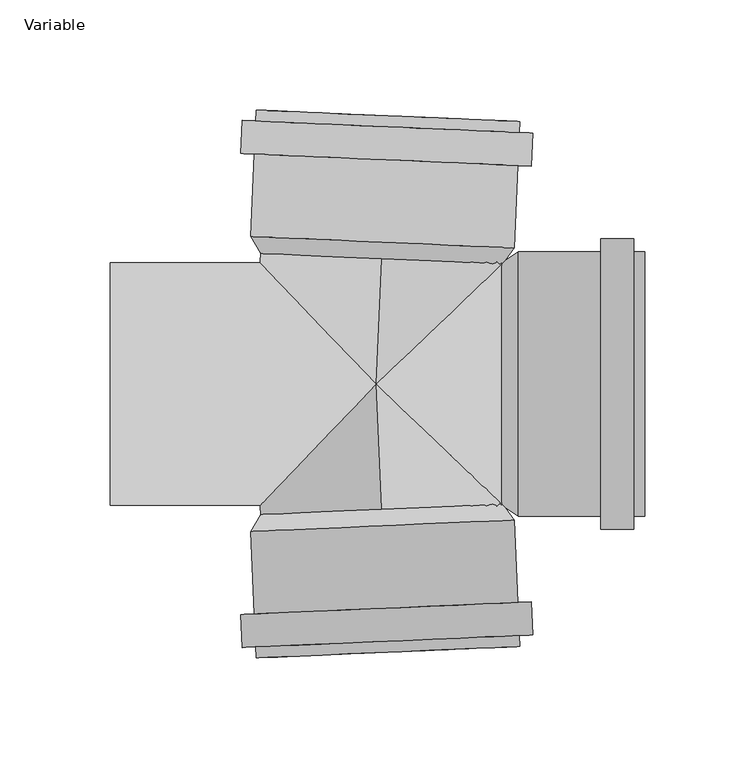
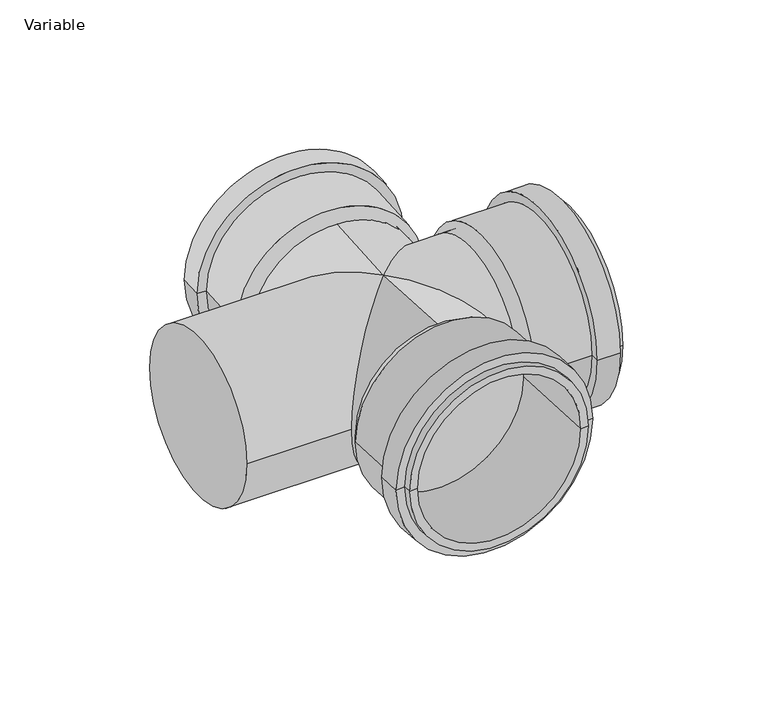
"""IFC4 building model written with IfcOpenShell, lengths in millimetres: pipe fitting geometry, AliaxisFR_Friaphon_DoubleParallelBranch_FR : Variable."""

from ifc_helpers import new_model, si_unit, frame, origin, place, context, project, spatial, polyline, circle_curve, ellipse_curve, source, transform, mapped, element, save
from ifc_brep_helpers import plane_surface, cylinder_surface, revolved_surface, advanced_brep


def variable_3cd19208(model_context):
    return source(origin(), model_context, "Body", "AdvancedBrep", [
        advanced_brep(
        [(65.2644586, -119.2667198, 0.0), (60.2692174, -119.4848167, 0.0), (-49.6260869, -124.2829493, 0.0), (-54.621328, -124.5010463, 0.0), (70.3863601, -99.024039, 0.0), (71.0406509, -114.0097624, 0.0), (-60.8337143, -119.7675215, 0.0), (-61.4880051, -104.7817982, 0.0), (64.3920708, -99.2857554, 0.0), (-55.4937158, -104.5200818, 0.0), (62.7563438, -61.8214471, 0.0), (-57.1294428, -67.0557735, 0.0), (57.4339573, -54.5466823, 0.0), (-52.4613471, -59.3448149, 0.0), (65.0463616, -114.2714787, 0.0), (-54.839425, -119.5058052, 0.0)],
        [
            (0, 1),
            (1, 2, circle_curve(frame((5.3215653, -121.883883, 0.0), z_axis=(-0.043619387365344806, 0.9990482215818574, 0.0), x_axis=(-0.9990482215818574, -0.043619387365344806, 0.0)), 55.0)),
            (2, 3),
            (3, 0, circle_curve(frame((5.3215653, -121.883883, 0.0), z_axis=(0.043619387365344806, -0.9990482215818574, 0.0), x_axis=(-0.9990482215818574, -0.043619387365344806, 0.0)), 60.0)),
            (2, 1, circle_curve(frame((5.3215653, -121.883883, 0.0), z_axis=(-0.043619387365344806, 0.9990482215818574, 0.0), x_axis=(-0.9990482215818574, -0.043619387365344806, 0.0)), 55.0)),
            (0, 3, circle_curve(frame((5.3215653, -121.883883, 0.0), z_axis=(0.043619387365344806, -0.9990482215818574, 0.0), x_axis=(-0.9990482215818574, -0.043619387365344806, 0.0)), 60.0)),
            (4, 5),
            (5, 6, circle_curve(frame((5.1034683, -116.8886419, 0.0), z_axis=(-0.043619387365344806, 0.9990482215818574, 0.0), x_axis=(-0.9990482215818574, -0.043619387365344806, 0.0)), 66.0)),
            (6, 7),
            (7, 4, circle_curve(frame((4.4491775, -101.9029186, 0.0), z_axis=(0.043619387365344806, -0.9990482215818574, 0.0), x_axis=(-0.9990482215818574, -0.043619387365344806, 0.0)), 66.0)),
            (6, 5, circle_curve(frame((5.1034683, -116.8886419, 0.0), z_axis=(-0.043619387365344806, 0.9990482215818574, 0.0), x_axis=(-0.9990482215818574, -0.043619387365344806, 0.0)), 66.0)),
            (4, 7, circle_curve(frame((4.4491775, -101.9029186, 0.0), z_axis=(0.043619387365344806, -0.9990482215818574, 0.0), x_axis=(-0.9990482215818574, -0.043619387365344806, 0.0)), 66.0)),
            (8, 4),
            (7, 9),
            (9, 8, circle_curve(frame((4.4491775, -101.9029186, 0.0), z_axis=(0.043619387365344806, -0.9990482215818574, 0.0), x_axis=(-0.9990482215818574, -0.043619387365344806, 0.0)), 60.0)),
            (8, 9, circle_curve(frame((4.4491775, -101.9029186, 0.0), z_axis=(0.043619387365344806, -0.9990482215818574, 0.0), x_axis=(-0.9990482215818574, -0.043619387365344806, 0.0)), 60.0)),
            (10, 8),
            (9, 11),
            (11, 10, circle_curve(frame((2.8134505, -64.4386103, 0.0), z_axis=(0.043619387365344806, -0.9990482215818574, 0.0), x_axis=(-0.9990482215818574, -0.043619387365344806, 0.0)), 60.0)),
            (10, 11, circle_curve(frame((2.8134505, -64.4386103, 0.0), z_axis=(0.043619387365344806, -0.9990482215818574, 0.0), x_axis=(-0.9990482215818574, -0.043619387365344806, 0.0)), 60.0)),
            (1, 12),
            (12, 13, circle_curve(frame((2.4863051, -56.9457486, 0.0), z_axis=(-0.043619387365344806, 0.9990482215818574, 0.0), x_axis=(-0.9990482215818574, -0.043619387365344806, 0.0)), 55.0)),
            (13, 2),
            (13, 12, circle_curve(frame((2.4863051, -56.9457486, 0.0), z_axis=(-0.043619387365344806, 0.9990482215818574, 0.0), x_axis=(-0.9990482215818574, -0.043619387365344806, 0.0)), 55.0)),
            (12, 10),
            (11, 13),
            (14, 0),
            (3, 15),
            (15, 14, circle_curve(frame((5.1034683, -116.8886419, 0.0), z_axis=(0.043619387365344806, -0.9990482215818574, 0.0), x_axis=(-0.9990482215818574, -0.043619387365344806, 0.0)), 60.0)),
            (14, 15, circle_curve(frame((5.1034683, -116.8886419, 0.0), z_axis=(0.043619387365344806, -0.9990482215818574, 0.0), x_axis=(-0.9990482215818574, -0.043619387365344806, 0.0)), 60.0)),
            (5, 14),
            (15, 6),
        ],
        [
            plane_surface(frame((5.3215653, -121.883883, 0.0), z_axis=(0.043619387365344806, -0.9990482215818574, 0.0), x_axis=(-0.9990482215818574, -0.043619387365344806, 0.0))),
            cylinder_surface(frame((2.4863051, -56.9457486, 0.0), z_axis=(-0.043619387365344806, 0.9990482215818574, 0.0), x_axis=(-0.9990482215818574, -0.043619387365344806, 0.0)), 66.0),
            plane_surface(frame((4.4491775, -101.9029186, 0.0), z_axis=(-0.043619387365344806, 0.9990482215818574, 0.0), x_axis=(-0.9990482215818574, -0.043619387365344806, 0.0))),
            cylinder_surface(frame((2.4863051, -56.9457486, 0.0), z_axis=(-0.043619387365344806, 0.9990482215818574, 0.0), x_axis=(-0.9990482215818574, -0.043619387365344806, 0.0)), 60.0),
            revolved_surface(polyline([(-52.46134708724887, -59.34481489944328, 0.0), (-49.626086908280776, -124.28294930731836, 0.0)]), (2.4863051, -56.9457486, 0.0), (-0.043619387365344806, 0.9990482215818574, 0.0)),
            revolved_surface(polyline([(-57.1294428, -67.0557735, 0.0), (-52.4613471, -59.3448149, 0.0)]), (2.4863051, -56.9457486, 0.0), (-0.043619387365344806, 0.9990482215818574, 0.0)),
            plane_surface(frame((5.1034683, -116.8886419, 0.0), z_axis=(0.043619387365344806, -0.9990482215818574, 0.0), x_axis=(-0.9990482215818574, -0.043619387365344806, 0.0))),
        ],
        [
            (0, [[1, 2, 3, 4]]),
            (0, [[-3, 5, -1, 6]]),
            (1, [[7, 8, 9, 10]]),
            (1, [[-9, 11, -7, 12]]),
            (2, [[13, -10, 14, 15]]),
            (2, [[-14, -12, -13, 16]]),
            (3, [[17, -15, 18, 19]]),
            (3, [[-18, -16, -17, 20]]),
            (4, [[21, 22, 23, -2]]),
            (4, [[-23, 24, -21, -5]]),
            (5, [[25, -19, 26, -22]]),
            (5, [[-26, -20, -25, -24]]),
            (3, [[27, -4, 28, 29]]),
            (3, [[-28, -6, -27, 30]]),
            (6, [[31, -29, 32, -8]]),
            (6, [[-32, -30, -31, -11]]),
        ],
    ),
        advanced_brep(
        [(122.0, -60.0, 0.0), (122.0, 60.0, 0.0), (122.0, 55.0, 0.0), (122.0, -55.0, 0.0), (102.0, -66.0, 0.0), (102.0, 66.0, 0.0), (117.0, 66.0, 0.0), (117.0, -66.0, 0.0), (102.0, -60.0, 0.0), (102.0, 60.0, 0.0), (64.5, -60.0, 0.0), (64.5, 60.0, 0.0), (57.0, 55.0, 0.0), (57.0, -55.0, 0.0), (117.0, -60.0, 0.0), (117.0, 60.0, 0.0)],
        [
            (0, 1, circle_curve(frame((122.0, 0.0, 0.0), z_axis=(1.0, 0.0, 0.0), x_axis=(0.0, 1.0, 0.0)), 60.0)),
            (1, 2),
            (2, 3, circle_curve(frame((122.0, 0.0, 0.0), z_axis=(-1.0, 0.0, 0.0), x_axis=(0.0, 1.0, 0.0)), 55.0)),
            (3, 0),
            (1, 0, circle_curve(frame((122.0, 0.0, 0.0), z_axis=(1.0, 0.0, 0.0), x_axis=(0.0, 1.0, 0.0)), 60.0)),
            (3, 2, circle_curve(frame((122.0, 0.0, 0.0), z_axis=(-1.0, 0.0, 0.0), x_axis=(0.0, 1.0, 0.0)), 55.0)),
            (4, 5, circle_curve(frame((102.0, 0.0, 0.0), z_axis=(1.0, 0.0, 0.0), x_axis=(0.0, 1.0, 0.0)), 66.0)),
            (5, 6),
            (6, 7, circle_curve(frame((117.0, 0.0, 0.0), z_axis=(-1.0, 0.0, 0.0), x_axis=(0.0, 1.0, 0.0)), 66.0)),
            (7, 4),
            (5, 4, circle_curve(frame((102.0, 0.0, 0.0), z_axis=(1.0, 0.0, 0.0), x_axis=(0.0, 1.0, 0.0)), 66.0)),
            (7, 6, circle_curve(frame((117.0, 0.0, 0.0), z_axis=(-1.0, 0.0, 0.0), x_axis=(0.0, 1.0, 0.0)), 66.0)),
            (8, 9, circle_curve(frame((102.0, 0.0, 0.0), z_axis=(1.0, 0.0, 0.0), x_axis=(0.0, 1.0, 0.0)), 60.0)),
            (9, 5),
            (4, 8),
            (9, 8, circle_curve(frame((102.0, 0.0, 0.0), z_axis=(1.0, 0.0, 0.0), x_axis=(0.0, 1.0, 0.0)), 60.0)),
            (10, 11, circle_curve(frame((64.5, 0.0, 0.0), z_axis=(1.0, 0.0, 0.0), x_axis=(0.0, 1.0, 0.0)), 60.0)),
            (11, 9),
            (8, 10),
            (11, 10, circle_curve(frame((64.5, 0.0, 0.0), z_axis=(1.0, 0.0, 0.0), x_axis=(0.0, 1.0, 0.0)), 60.0)),
            (2, 12),
            (12, 13, circle_curve(frame((57.0, 0.0, 0.0), z_axis=(-1.0, 0.0, 0.0), x_axis=(0.0, 1.0, 0.0)), 55.0)),
            (13, 3),
            (13, 12, circle_curve(frame((57.0, 0.0, 0.0), z_axis=(-1.0, 0.0, 0.0), x_axis=(0.0, 1.0, 0.0)), 55.0)),
            (12, 11),
            (10, 13),
            (14, 15, circle_curve(frame((117.0, 0.0, 0.0), z_axis=(1.0, 0.0, 0.0), x_axis=(0.0, 1.0, 0.0)), 60.0)),
            (15, 1),
            (0, 14),
            (15, 14, circle_curve(frame((117.0, 0.0, 0.0), z_axis=(1.0, 0.0, 0.0), x_axis=(0.0, 1.0, 0.0)), 60.0)),
            (6, 15),
            (14, 7),
        ],
        [
            plane_surface(frame((122.0, 0.0, 0.0), z_axis=(1.0, 0.0, 0.0), x_axis=(0.0, 1.0, 0.0))),
            cylinder_surface(frame((57.0, 0.0, 0.0), z_axis=(-1.0, 0.0, 0.0), x_axis=(0.0, 1.0, 0.0)), 66.0),
            plane_surface(frame((102.0, 0.0, 0.0), z_axis=(-1.0, 0.0, 0.0), x_axis=(0.0, 1.0, 0.0))),
            cylinder_surface(frame((57.0, 0.0, 0.0), z_axis=(-1.0, 0.0, 0.0), x_axis=(0.0, 1.0, 0.0)), 60.0),
            revolved_surface(polyline([(57.0, 55.0, 0.0), (122.0, 55.0, 0.0)]), (57.0, 0.0, 0.0), (-1.0, 0.0, 0.0)),
            revolved_surface(polyline([(64.5, 60.0, 0.0), (57.0, 55.0, 0.0)]), (57.0, 0.0, 0.0), (-1.0, 0.0, 0.0)),
            plane_surface(frame((117.0, 0.0, 0.0), z_axis=(1.0, 0.0, 0.0), x_axis=(0.0, 1.0, 0.0))),
        ],
        [
            (0, [[1, 2, 3, 4]]),
            (0, [[5, -4, 6, -2]]),
            (1, [[7, 8, 9, 10]]),
            (1, [[11, -10, 12, -8]]),
            (2, [[13, 14, -7, 15]]),
            (2, [[16, -15, -11, -14]]),
            (3, [[17, 18, -13, 19]]),
            (3, [[20, -19, -16, -18]]),
            (4, [[-3, 21, 22, 23]]),
            (4, [[-6, -23, 24, -21]]),
            (5, [[-22, 25, -17, 26]]),
            (5, [[-24, -26, -20, -25]]),
            (3, [[27, 28, -1, 29]]),
            (3, [[30, -29, -5, -28]]),
            (6, [[-9, 31, -27, 32]]),
            (6, [[-12, -32, -30, -31]]),
        ],
    ),
        advanced_brep(
        [(65.2644586, 119.2667198, 0.0), (-54.621328, 124.5010463, 0.0), (-49.6260869, 124.2829493, 0.0), (60.2692174, 119.4848167, 0.0), (70.3863601, 99.024039, 0.0), (-61.4880051, 104.7817982, 0.0), (-60.8337143, 119.7675215, 0.0), (71.0406509, 114.0097624, 0.0), (64.3920708, 99.2857554, 0.0), (-55.4937158, 104.5200818, 0.0), (62.7563438, 61.8214471, 0.0), (-57.1294428, 67.0557735, 0.0), (-52.4613471, 59.3448149, 0.0), (57.4339573, 54.5466823, 0.0), (65.0463616, 114.2714787, 0.0), (-54.839425, 119.5058052, 0.0)],
        [
            (0, 1, circle_curve(frame((5.3215653, 121.883883, 0.0), z_axis=(0.04361938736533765, 0.9990482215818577, 0.0), x_axis=(-0.9990482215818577, 0.04361938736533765, 0.0)), 60.0)),
            (1, 2),
            (2, 3, circle_curve(frame((5.3215653, 121.883883, 0.0), z_axis=(-0.04361938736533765, -0.9990482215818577, 0.0), x_axis=(-0.9990482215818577, 0.04361938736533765, 0.0)), 55.0)),
            (3, 0),
            (1, 0, circle_curve(frame((5.3215653, 121.883883, 0.0), z_axis=(0.04361938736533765, 0.9990482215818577, 0.0), x_axis=(-0.9990482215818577, 0.04361938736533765, 0.0)), 60.0)),
            (3, 2, circle_curve(frame((5.3215653, 121.883883, 0.0), z_axis=(-0.04361938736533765, -0.9990482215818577, 0.0), x_axis=(-0.9990482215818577, 0.04361938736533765, 0.0)), 55.0)),
            (4, 5, circle_curve(frame((4.4491775, 101.9029186, 0.0), z_axis=(0.04361938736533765, 0.9990482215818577, 0.0), x_axis=(-0.9990482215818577, 0.04361938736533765, 0.0)), 66.0)),
            (5, 6),
            (6, 7, circle_curve(frame((5.1034683, 116.8886419, 0.0), z_axis=(-0.04361938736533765, -0.9990482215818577, 0.0), x_axis=(-0.9990482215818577, 0.04361938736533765, 0.0)), 66.0)),
            (7, 4),
            (5, 4, circle_curve(frame((4.4491775, 101.9029186, 0.0), z_axis=(0.04361938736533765, 0.9990482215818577, 0.0), x_axis=(-0.9990482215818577, 0.04361938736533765, 0.0)), 66.0)),
            (7, 6, circle_curve(frame((5.1034683, 116.8886419, 0.0), z_axis=(-0.04361938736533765, -0.9990482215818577, 0.0), x_axis=(-0.9990482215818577, 0.04361938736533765, 0.0)), 66.0)),
            (8, 9, circle_curve(frame((4.4491775, 101.9029186, 0.0), z_axis=(0.04361938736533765, 0.9990482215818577, 0.0), x_axis=(-0.9990482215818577, 0.04361938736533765, 0.0)), 60.0)),
            (9, 5),
            (4, 8),
            (9, 8, circle_curve(frame((4.4491775, 101.9029186, 0.0), z_axis=(0.04361938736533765, 0.9990482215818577, 0.0), x_axis=(-0.9990482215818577, 0.04361938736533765, 0.0)), 60.0)),
            (10, 11, circle_curve(frame((2.8134505, 64.4386103, 0.0), z_axis=(0.04361938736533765, 0.9990482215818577, 0.0), x_axis=(-0.9990482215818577, 0.04361938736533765, 0.0)), 60.0)),
            (11, 9),
            (8, 10),
            (11, 10, circle_curve(frame((2.8134505, 64.4386103, 0.0), z_axis=(0.04361938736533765, 0.9990482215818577, 0.0), x_axis=(-0.9990482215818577, 0.04361938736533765, 0.0)), 60.0)),
            (2, 12),
            (12, 13, circle_curve(frame((2.4863051, 56.9457486, 0.0), z_axis=(-0.04361938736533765, -0.9990482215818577, 0.0), x_axis=(-0.9990482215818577, 0.04361938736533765, 0.0)), 55.0)),
            (13, 3),
            (13, 12, circle_curve(frame((2.4863051, 56.9457486, 0.0), z_axis=(-0.04361938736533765, -0.9990482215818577, 0.0), x_axis=(-0.9990482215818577, 0.04361938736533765, 0.0)), 55.0)),
            (12, 11),
            (10, 13),
            (14, 15, circle_curve(frame((5.1034683, 116.8886419, 0.0), z_axis=(0.04361938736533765, 0.9990482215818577, 0.0), x_axis=(-0.9990482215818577, 0.04361938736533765, 0.0)), 60.0)),
            (15, 1),
            (0, 14),
            (15, 14, circle_curve(frame((5.1034683, 116.8886419, 0.0), z_axis=(0.04361938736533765, 0.9990482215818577, 0.0), x_axis=(-0.9990482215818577, 0.04361938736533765, 0.0)), 60.0)),
            (6, 15),
            (14, 7),
        ],
        [
            plane_surface(frame((5.3215653, 121.883883, 0.0), z_axis=(0.04361938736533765, 0.9990482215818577, 0.0), x_axis=(-0.9990482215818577, 0.04361938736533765, 0.0))),
            cylinder_surface(frame((2.4863051, 56.9457486, 0.0), z_axis=(-0.04361938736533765, -0.9990482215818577, 0.0), x_axis=(-0.9990482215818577, 0.04361938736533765, 0.0)), 66.0),
            plane_surface(frame((4.4491775, 101.9029186, 0.0), z_axis=(-0.04361938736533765, -0.9990482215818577, 0.0), x_axis=(-0.9990482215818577, 0.04361938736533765, 0.0))),
            cylinder_surface(frame((2.4863051, 56.9457486, 0.0), z_axis=(-0.04361938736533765, -0.9990482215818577, 0.0), x_axis=(-0.9990482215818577, 0.04361938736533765, 0.0)), 60.0),
            revolved_surface(polyline([(-52.46134708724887, 59.34481489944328, 0.0), (-49.62608690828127, 124.28294930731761, 0.0)]), (2.4863051, 56.9457486, 0.0), (-0.04361938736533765, -0.9990482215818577, 0.0)),
            revolved_surface(polyline([(-57.1294428, 67.0557735, 0.0), (-52.4613471, 59.3448149, 0.0)]), (2.4863051, 56.9457486, 0.0), (-0.04361938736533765, -0.9990482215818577, 0.0)),
            plane_surface(frame((5.1034683, 116.8886419, 0.0), z_axis=(0.04361938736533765, 0.9990482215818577, 0.0), x_axis=(-0.9990482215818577, 0.04361938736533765, 0.0))),
        ],
        [
            (0, [[1, 2, 3, 4]]),
            (0, [[5, -4, 6, -2]]),
            (1, [[7, 8, 9, 10]]),
            (1, [[11, -10, 12, -8]]),
            (2, [[13, 14, -7, 15]]),
            (2, [[16, -15, -11, -14]]),
            (3, [[17, 18, -13, 19]]),
            (3, [[20, -19, -16, -18]]),
            (4, [[-3, 21, 22, 23]]),
            (4, [[-6, -23, 24, -21]]),
            (5, [[-22, 25, -17, 26]]),
            (5, [[-24, -26, -20, -25]]),
            (3, [[27, 28, -1, 29]]),
            (3, [[30, -29, -5, -28]]),
            (6, [[-9, 31, -27, 32]]),
            (6, [[-12, -32, -30, -31]]),
        ],
    ),
        advanced_brep(
        [(2.704402, 61.9409897, -55.0), (2.704402, 61.9409897, 55.0), (0.0, 0.0, 55.0), (57.4537495, 55.0, 0.0), (0.0, 0.0, -55.0), (-52.6510458, 55.0, 0.0), (62.0, -55.0, 0.0), (62.0, 55.0, 0.0), (-121.0, -55.0, 0.0), (-121.0, 55.0, 0.0), (-52.6510458, -55.0, 0.0), (57.4537495, -55.0, 0.0), (2.704402, -61.9409897, -55.0), (2.704402, -61.9409897, 55.0)],
        [
            (0, 1, circle_curve(frame((2.704402, 61.9409897, 0.0), z_axis=(0.043619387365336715, 0.9990482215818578, 0.0), x_axis=(0.0, 0.0, 1.0)), 55.0)),
            (1, 0, circle_curve(frame((2.704402, 61.9409897, 0.0), z_axis=(0.043619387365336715, 0.9990482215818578, 0.0), x_axis=(0.0, 0.0, 1.0)), 55.0)),
            (1, 2),
            (2, 3, ellipse_curve(frame((0.0, 0.0, 0.0), z_axis=(-0.691513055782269, 0.7223639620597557, 0.0), x_axis=(-0.7223639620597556, -0.6915130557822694, 0.0)), 79.5357362, 55.0)),
            (3, 4, ellipse_curve(frame((0.0, 0.0, 0.0), z_axis=(-0.691513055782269, 0.7223639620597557, 0.0), x_axis=(-0.7223639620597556, -0.6915130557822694, 0.0)), 79.5357362, 55.0)),
            (4, 0),
            (4, 5, ellipse_curve(frame((0.0, 0.0, 0.0), z_axis=(0.7223639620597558, 0.6915130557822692, 0.0), x_axis=(0.6915130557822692, -0.7223639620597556, 0.0)), 76.1389035, 55.0)),
            (5, 2, ellipse_curve(frame((0.0, 0.0, 0.0), z_axis=(0.7223639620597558, 0.6915130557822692, 0.0), x_axis=(0.6915130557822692, -0.7223639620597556, 0.0)), 76.1389035, 55.0)),
            (6, 7, circle_curve(frame((62.0, 0.0, 0.0), z_axis=(1.0, 0.0, 0.0), x_axis=(0.0, 1.0, 0.0)), 55.0)),
            (7, 6, circle_curve(frame((62.0, 0.0, 0.0), z_axis=(1.0, 0.0, 0.0), x_axis=(0.0, 1.0, 0.0)), 55.0)),
            (8, 9, circle_curve(frame((-121.0, 0.0, 0.0), z_axis=(-1.0, 0.0, 0.0), x_axis=(0.0, 1.0, 0.0)), 55.0)),
            (9, 8, circle_curve(frame((-121.0, 0.0, 0.0), z_axis=(-1.0, 0.0, 0.0), x_axis=(0.0, 1.0, 0.0)), 55.0)),
            (9, 5),
            (4, 10, ellipse_curve(frame((0.0, 0.0, 0.0), z_axis=(-0.7223639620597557, 0.6915130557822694, 0.0), x_axis=(0.6915130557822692, 0.7223639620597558, 0.0)), 76.1389035, 55.0)),
            (10, 8),
            (6, 11),
            (11, 4, ellipse_curve(frame((0.0, 0.0, 0.0), z_axis=(0.6915130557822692, 0.7223639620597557, 0.0), x_axis=(0.7223639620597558, -0.6915130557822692, 0.0)), 79.5357362, 55.0)),
            (3, 7),
            (10, 2, ellipse_curve(frame((0.0, 0.0, 0.0), z_axis=(-0.7223639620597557, 0.6915130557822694, 0.0), x_axis=(0.6915130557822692, 0.7223639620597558, 0.0)), 76.1389035, 55.0)),
            (2, 11, ellipse_curve(frame((0.0, 0.0, 0.0), z_axis=(0.6915130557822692, 0.7223639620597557, 0.0), x_axis=(0.7223639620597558, -0.6915130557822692, 0.0)), 79.5357362, 55.0)),
            (12, 13, circle_curve(frame((2.704402, -61.9409897, 0.0), z_axis=(0.04361938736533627, -0.9990482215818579, 0.0), x_axis=(0.0, 0.0, 1.0)), 55.0)),
            (13, 12, circle_curve(frame((2.704402, -61.9409897, 0.0), z_axis=(0.04361938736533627, -0.9990482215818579, 0.0), x_axis=(0.0, 0.0, 1.0)), 55.0)),
            (12, 4),
            (2, 13),
        ],
        [
            plane_surface(frame((2.704402, 61.9409897, 55.0), z_axis=(0.04361938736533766, 0.9990482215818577, 0.0), x_axis=(0.9990482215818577, -0.04361938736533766, 0.0))),
            cylinder_surface(frame((2.704402, 61.9409897, 0.0), z_axis=(-0.043619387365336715, -0.9990482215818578, 0.0), x_axis=(0.0, 0.0, 1.0)), 55.0),
            plane_surface(frame((62.0, 55.0, 0.0), z_axis=(1.0, 0.0, 0.0), x_axis=(0.0, 0.0, 1.0))),
            plane_surface(frame((-121.0, 55.0, 0.0), z_axis=(-1.0, 0.0, 0.0), x_axis=(0.0, 0.0, -1.0))),
            cylinder_surface(frame((-121.0, 0.0, 0.0), z_axis=(1.0, 0.0, 0.0), x_axis=(0.0, 1.0, 0.0)), 55.0),
            plane_surface(frame((2.704402, -61.9409897, 55.0), z_axis=(0.04361938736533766, -0.9990482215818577, 0.0), x_axis=(-0.9990482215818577, -0.04361938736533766, 0.0))),
            cylinder_surface(frame((2.704402, -61.9409897, 0.0), z_axis=(-0.043619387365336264, 0.9990482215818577, 0.0), x_axis=(0.0, 0.0, 1.0)), 55.0),
        ],
        [
            (0, [[1, 2]]),
            (1, [[-2, 3, 4, 5, 6]]),
            (1, [[-1, -6, 7, 8, -3]]),
            (2, [[9, 10]]),
            (3, [[11, 12]]),
            (4, [[-12, 13, -7, 14, 15]]),
            (4, [[-9, 16, 17, -5, 18]]),
            (4, [[-11, -15, 19, -8, -13]]),
            (4, [[-10, -18, -4, 20, -16]]),
            (5, [[21, 22]]),
            (6, [[-21, 23, -17, -20, 24]]),
            (6, [[-22, -24, -19, -14, -23]]),
        ],
    ),
    ])


if __name__ == "__main__":
    model = new_model("IFC4")
    model_context = context("Model", 3, world=origin())
    ifc_project = project(units=[si_unit("LENGTHUNIT", "METRE", prefix="MILLI")], contexts=[model_context])
    site = spatial("IfcSite", under=ifc_project)
    building = spatial("IfcBuilding", under=site)
    placement = place(None, origin())
    variable_shape = variable_3cd19208(model_context)
    element("IfcPipeFitting", 1, ObjectType="AliaxisFR_Friaphon_DoubleParallelBranch_FR : Variable", at=placement, inside=building, context=model_context, shape_type="MappedRepresentation", body=[
        mapped(variable_shape, transform((0.0, 0.0, 0.0), x_axis=(1.0, 0.0, 0.0), y_axis=(0.0, 1.0, 0.0), z_axis=(0.0, 0.0, 1.0))),
    ])
    save(model, "model.ifc")
